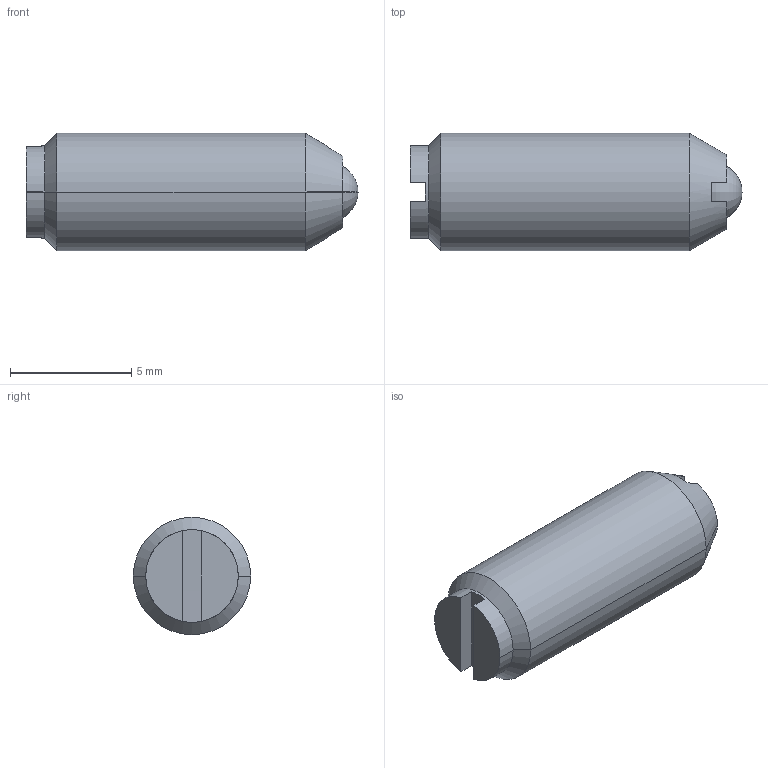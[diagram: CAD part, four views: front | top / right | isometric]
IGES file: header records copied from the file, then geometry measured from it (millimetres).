
Start section:  PTC IGES file: b52-3d.igs
Global section: file name: b52-3d.igs; native system: Pro/ENGINEER by Parametric Technology Corporation; preprocessor: 2002350; author: chant; organization: Unknown; date: 061025.112741; units: inch
Bounding box: 13.67 x 4.83 x 4.83 mm (x, y, z)
Surface area: 255.4 mm2 (no closed solid volume)
Topology: 0 solids, 0 shells, 26 faces, 185 edges, 233 vertices
Faces by surface type: revolution 15, bspline 11
